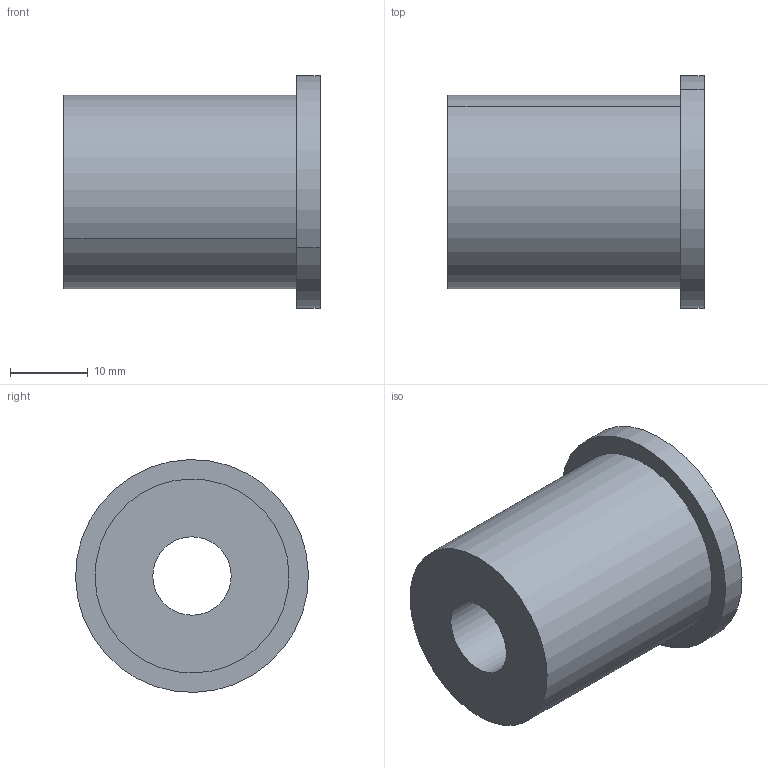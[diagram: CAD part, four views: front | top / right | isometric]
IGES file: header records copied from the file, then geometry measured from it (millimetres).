
Start section: START RECORD GO HERE.
Global section: file name: BAGUE CROISILLON.igs; native system: IBM CATIA IGES - CATIA Version 5 Release 18 ; preprocessor: CATIA Version 5 Release 18 ; author: Propriétaire; organization: FUJITSU-79916BB; date: 20090111.155327; units: millimetre
Bounding box: 33 x 29.99 x 29.99 mm (x, y, z)
Surface area: 4939.9 mm2 (no closed solid volume)
Topology: 0 solids, 0 shells, 9 faces, 36 edges, 36 vertices
Faces by surface type: revolution 6, plane 3
